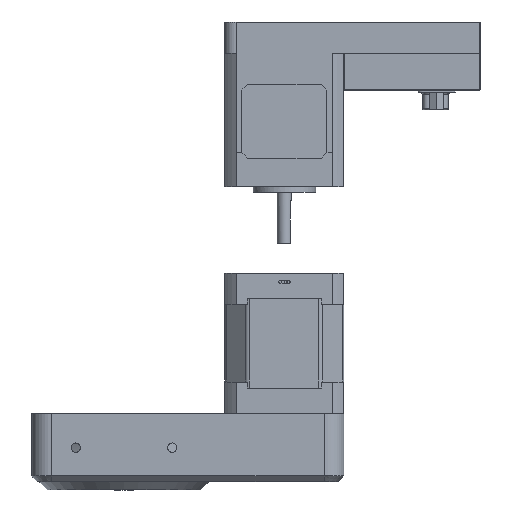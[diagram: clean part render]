
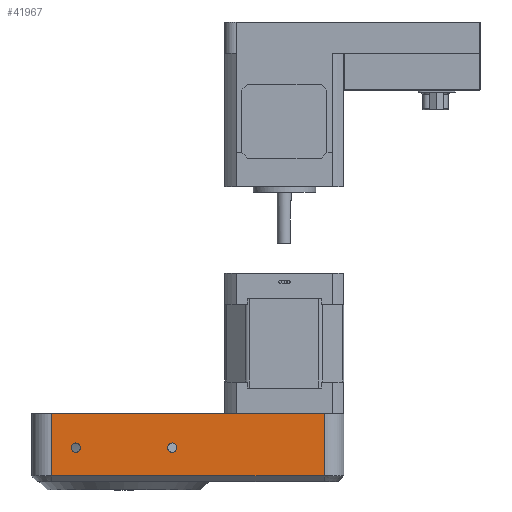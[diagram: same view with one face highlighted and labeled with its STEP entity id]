
A CAD part, front view. The second image highlights one B-rep face of the part: STEP entity #41967.
In plain terms, the highlighted planar face has unit normal (0, -1, 0).
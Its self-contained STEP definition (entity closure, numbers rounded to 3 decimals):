
#1460 = CARTESIAN_POINT ( 'NONE',  ( -44.012, -27.085, 115.069 ) ) ;
#1699 = CARTESIAN_POINT ( 'NONE',  ( -10.012, -27.085, 115.069 ) ) ;
#2351 = VERTEX_POINT ( 'NONE', #40366 ) ;
#2415 = VERTEX_POINT ( 'NONE', #47098 ) ;
#3370 = CIRCLE ( 'NONE', #28404, 1.65 ) ;
#5532 = CIRCLE ( 'NONE', #10918, 1.65 ) ;
#5901 = ORIENTED_EDGE ( 'NONE', *, *, #53936, .T. ) ;
#6692 = ORIENTED_EDGE ( 'NONE', *, *, #11373, .F. ) ;
#6768 = DIRECTION ( 'NONE',  ( 0., -1., 0. ) ) ;
#7220 = VERTEX_POINT ( 'NONE', #1699 ) ;
#7670 = EDGE_CURVE ( 'NONE', #11085, #21314, #24515, .T. ) ;
#8641 = EDGE_CURVE ( 'NONE', #2351, #43942, #47275, .T. ) ;
#9139 = DIRECTION ( 'NONE',  ( 0., 0., -1. ) ) ;
#9927 = DIRECTION ( 'NONE',  ( 0., -1., 0. ) ) ;
#10618 = DIRECTION ( 'NONE',  ( 0., 0., -1. ) ) ;
#10918 = AXIS2_PLACEMENT_3D ( 'NONE', #25372, #34898, #9139 ) ;
#11085 = VERTEX_POINT ( 'NONE', #1460 ) ;
#11373 = EDGE_CURVE ( 'NONE', #24482, #2351, #22393, .T. ) ;
#11805 = VERTEX_POINT ( 'NONE', #23012 ) ;
#11896 = CARTESIAN_POINT ( 'NONE',  ( 43.488, -27.085, 106.719 ) ) ;
#12286 = EDGE_CURVE ( 'NONE', #11805, #7220, #5532, .T. ) ;
#12747 = CARTESIAN_POINT ( 'NONE',  ( -44.012, -27.085, 118.369 ) ) ;
#13573 = VECTOR ( 'NONE', #45503, 1000. ) ;
#13712 = EDGE_CURVE ( 'NONE', #7220, #11805, #3370, .T. ) ;
#14769 = CARTESIAN_POINT ( 'NONE',  ( -44.012, -27.085, 116.719 ) ) ;
#15217 = EDGE_LOOP ( 'NONE', ( #32475, #54758 ) ) ;
#16886 = CARTESIAN_POINT ( 'NONE',  ( -52.512, -27.085, 128.719 ) ) ;
#19191 = LINE ( 'NONE', #27657, #13573 ) ;
#20249 = FACE_OUTER_BOUND ( 'NONE', #40567, .T. ) ;
#20823 = DIRECTION ( 'NONE',  ( 0., 0., 1. ) ) ;
#21314 = VERTEX_POINT ( 'NONE', #12747 ) ;
#21439 = EDGE_CURVE ( 'NONE', #21314, #11085, #47392, .T. ) ;
#22393 = LINE ( 'NONE', #40277, #25950 ) ;
#23012 = CARTESIAN_POINT ( 'NONE',  ( -10.012, -27.085, 118.369 ) ) ;
#23486 = DIRECTION ( 'NONE',  ( 1., 0., 0. ) ) ;
#23848 = DIRECTION ( 'NONE',  ( 0., 0., -1. ) ) ;
#23935 = EDGE_CURVE ( 'NONE', #2415, #24482, #32270, .T. ) ;
#24387 = CARTESIAN_POINT ( 'NONE',  ( -44.012, -27.085, 116.719 ) ) ;
#24482 = VERTEX_POINT ( 'NONE', #16886 ) ;
#24515 = CIRCLE ( 'NONE', #51414, 1.65 ) ;
#25372 = CARTESIAN_POINT ( 'NONE',  ( -10.012, -27.085, 116.719 ) ) ;
#25683 = DIRECTION ( 'NONE',  ( 0., 0., -1. ) ) ;
#25950 = VECTOR ( 'NONE', #23486, 1000. ) ;
#26114 = ORIENTED_EDGE ( 'NONE', *, *, #21439, .F. ) ;
#26157 = EDGE_LOOP ( 'NONE', ( #46075, #26114 ) ) ;
#26158 = DIRECTION ( 'NONE',  ( 0., 0., -1. ) ) ;
#27657 = CARTESIAN_POINT ( 'NONE',  ( -59.512, -27.085, 106.719 ) ) ;
#28061 = DIRECTION ( 'NONE',  ( 0., 0., 1. ) ) ;
#28404 = AXIS2_PLACEMENT_3D ( 'NONE', #48284, #9927, #26158 ) ;
#29542 = AXIS2_PLACEMENT_3D ( 'NONE', #24387, #6768, #23848 ) ;
#30256 = VECTOR ( 'NONE', #28061, 1000. ) ;
#32270 = LINE ( 'NONE', #49372, #30256 ) ;
#32475 = ORIENTED_EDGE ( 'NONE', *, *, #13712, .F. ) ;
#34367 = ORIENTED_EDGE ( 'NONE', *, *, #8641, .F. ) ;
#34898 = DIRECTION ( 'NONE',  ( 0., -1., 0. ) ) ;
#40277 = CARTESIAN_POINT ( 'NONE',  ( -59.512, -27.085, 128.719 ) ) ;
#40366 = CARTESIAN_POINT ( 'NONE',  ( 43.488, -27.085, 128.719 ) ) ;
#40567 = EDGE_LOOP ( 'NONE', ( #5901, #34367, #6692, #50574 ) ) ;
#41234 = AXIS2_PLACEMENT_3D ( 'NONE', #54841, #42355, #20823 ) ;
#41967 = ADVANCED_FACE ( 'NONE', ( #55109, #50278, #20249 ), #50553, .F. ) ;
#42355 = DIRECTION ( 'NONE',  ( 0., 1., 0. ) ) ;
#43942 = VERTEX_POINT ( 'NONE', #11896 ) ;
#45503 = DIRECTION ( 'NONE',  ( 1., 0., 0. ) ) ;
#46075 = ORIENTED_EDGE ( 'NONE', *, *, #7670, .F. ) ;
#47098 = CARTESIAN_POINT ( 'NONE',  ( -52.512, -27.085, 106.718 ) ) ;
#47275 = LINE ( 'NONE', #51793, #53458 ) ;
#47392 = CIRCLE ( 'NONE', #29542, 1.65 ) ;
#48284 = CARTESIAN_POINT ( 'NONE',  ( -10.012, -27.085, 116.719 ) ) ;
#49372 = CARTESIAN_POINT ( 'NONE',  ( -52.512, -27.085, 128.719 ) ) ;
#50278 = FACE_BOUND ( 'NONE', #26157, .T. ) ;
#50553 = PLANE ( 'NONE',  #41234 ) ;
#50574 = ORIENTED_EDGE ( 'NONE', *, *, #23935, .F. ) ;
#51414 = AXIS2_PLACEMENT_3D ( 'NONE', #14769, #53238, #10618 ) ;
#51793 = CARTESIAN_POINT ( 'NONE',  ( 43.488, -27.085, 128.719 ) ) ;
#53238 = DIRECTION ( 'NONE',  ( 0., -1., 0. ) ) ;
#53458 = VECTOR ( 'NONE', #25683, 1000. ) ;
#53936 = EDGE_CURVE ( 'NONE', #2415, #43942, #19191, .T. ) ;
#54758 = ORIENTED_EDGE ( 'NONE', *, *, #12286, .F. ) ;
#54841 = CARTESIAN_POINT ( 'NONE',  ( -59.512, -27.085, 128.719 ) ) ;
#55109 = FACE_BOUND ( 'NONE', #15217, .T. ) ;
